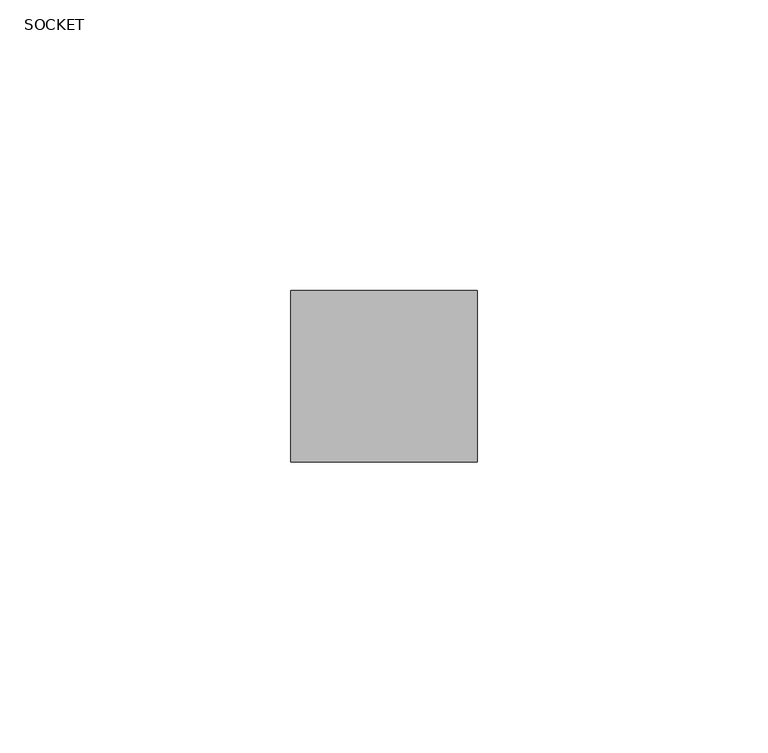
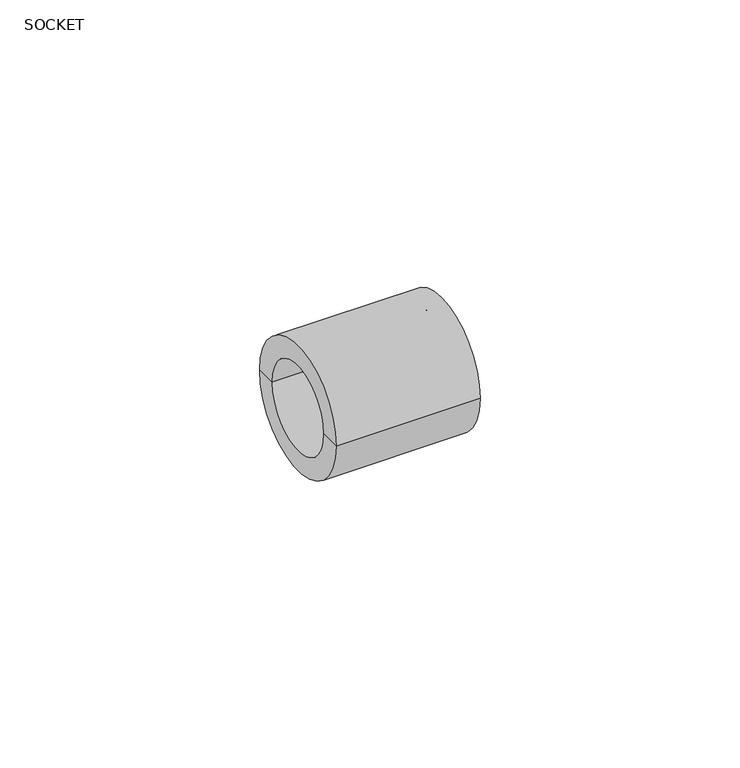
"""IFC4 building model written with IfcOpenShell, lengths in millimetres: pipe fitting geometry, Aquatherm - Coupling Socket : SOCKET."""

from ifc_helpers import new_model, si_unit, frame, origin, place, context, project, spatial, polyline, circle_curve, source, transform, mapped, element, save
from ifc_brep_helpers import plane_surface, cylinder_surface, revolved_surface, advanced_brep


def socket_94a9f45b(model_context):
    return source(origin(), model_context, "Body", "AdvancedBrep", [
        advanced_brep(
        [(-16.002, -10.033, 0.0), (-16.002, 10.033, 0.0), (-16.002, 14.732, 0.0), (-16.002, -14.732, 0.0), (-1.524, -10.033, 0.0), (-1.524, 10.033, 0.0), (-1.524, -6.985, 0.0), (-1.524, 6.985, 0.0), (1.524, -6.985, 0.0), (1.524, 6.985, 0.0), (1.524, -10.033, 0.0), (1.524, 10.033, 0.0), (16.002, -10.033, 0.0), (16.002, 10.033, 0.0), (16.002, -14.732, 0.0), (16.002, 14.732, 0.0)],
        [
            (0, 1, circle_curve(frame((-16.002, 0.0, 0.0), z_axis=(1.0, 0.0, 0.0), x_axis=(0.0, 1.0, 0.0)), 10.033)),
            (1, 2),
            (2, 3, circle_curve(frame((-16.002, 0.0, 0.0), z_axis=(-1.0, 0.0, 0.0), x_axis=(0.0, 1.0, 0.0)), 14.732)),
            (3, 0),
            (1, 0, circle_curve(frame((-16.002, 0.0, 0.0), z_axis=(1.0, 0.0, 0.0), x_axis=(0.0, 1.0, 0.0)), 10.033)),
            (3, 2, circle_curve(frame((-16.002, 0.0, 0.0), z_axis=(-1.0, 0.0, 0.0), x_axis=(0.0, 1.0, 0.0)), 14.732)),
            (4, 5, circle_curve(frame((-1.524, 0.0, 0.0), z_axis=(1.0, 0.0, 0.0), x_axis=(0.0, 1.0, 0.0)), 10.033)),
            (5, 1),
            (0, 4),
            (5, 4, circle_curve(frame((-1.524, 0.0, 0.0), z_axis=(1.0, 0.0, 0.0), x_axis=(0.0, 1.0, 0.0)), 10.033)),
            (6, 7, circle_curve(frame((-1.524, 0.0, 0.0), z_axis=(1.0, 0.0, 0.0), x_axis=(0.0, 1.0, 0.0)), 6.985)),
            (7, 5),
            (4, 6),
            (7, 6, circle_curve(frame((-1.524, 0.0, 0.0), z_axis=(1.0, 0.0, 0.0), x_axis=(0.0, 1.0, 0.0)), 6.985)),
            (8, 9, circle_curve(frame((1.524, 0.0, 0.0), z_axis=(1.0, 0.0, 0.0), x_axis=(0.0, 1.0, 0.0)), 6.985)),
            (9, 7),
            (6, 8),
            (9, 8, circle_curve(frame((1.524, 0.0, 0.0), z_axis=(1.0, 0.0, 0.0), x_axis=(0.0, 1.0, 0.0)), 6.985)),
            (10, 11, circle_curve(frame((1.524, 0.0, 0.0), z_axis=(1.0, 0.0, 0.0), x_axis=(0.0, 1.0, 0.0)), 10.033)),
            (11, 9),
            (8, 10),
            (11, 10, circle_curve(frame((1.524, 0.0, 0.0), z_axis=(1.0, 0.0, 0.0), x_axis=(0.0, 1.0, 0.0)), 10.033)),
            (12, 13, circle_curve(frame((16.002, 0.0, 0.0), z_axis=(1.0, 0.0, 0.0), x_axis=(0.0, 1.0, 0.0)), 10.033)),
            (13, 11),
            (10, 12),
            (13, 12, circle_curve(frame((16.002, 0.0, 0.0), z_axis=(1.0, 0.0, 0.0), x_axis=(0.0, 1.0, 0.0)), 10.033)),
            (14, 15, circle_curve(frame((16.002, 0.0, 0.0), z_axis=(1.0, 0.0, 0.0), x_axis=(0.0, 1.0, 0.0)), 14.732)),
            (15, 13),
            (12, 14),
            (15, 14, circle_curve(frame((16.002, 0.0, 0.0), z_axis=(1.0, 0.0, 0.0), x_axis=(0.0, 1.0, 0.0)), 14.732)),
            (2, 15),
            (14, 3),
        ],
        [
            plane_surface(frame((-16.002, 0.0, 0.0), z_axis=(-1.0, 0.0, 0.0), x_axis=(0.0, 1.0, 0.0))),
            revolved_surface(polyline([(-16.002, 10.033, 0.0), (-1.524000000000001, 10.033, 0.0)]), (-32.3004022, 0.0, 0.0), (-1.0, 0.0, 0.0)),
            plane_surface(frame((-1.524, 0.0, 0.0), z_axis=(-1.0, 0.0, 0.0), x_axis=(0.0, 1.0, 0.0))),
            revolved_surface(polyline([(-1.524000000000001, 6.985, 0.0), (1.524000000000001, 6.985, 0.0)]), (-32.3004022, 0.0, 0.0), (-1.0, 0.0, 0.0)),
            plane_surface(frame((1.524, 0.0, 0.0), z_axis=(1.0, 0.0, 0.0), x_axis=(0.0, 1.0, 0.0))),
            revolved_surface(polyline([(1.524000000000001, 10.033, 0.0), (16.002000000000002, 10.033, 0.0)]), (-32.3004022, 0.0, 0.0), (-1.0, 0.0, 0.0)),
            plane_surface(frame((16.002, 0.0, 0.0), z_axis=(1.0, 0.0, 0.0), x_axis=(0.0, 1.0, 0.0))),
            cylinder_surface(frame((-32.3004022, 0.0, 0.0), z_axis=(-1.0, 0.0, 0.0), x_axis=(0.0, 1.0, 0.0)), 14.732),
        ],
        [
            (0, [[1, 2, 3, 4]]),
            (0, [[5, -4, 6, -2]]),
            (1, [[7, 8, -1, 9]]),
            (1, [[10, -9, -5, -8]]),
            (2, [[11, 12, -7, 13]]),
            (2, [[14, -13, -10, -12]]),
            (3, [[15, 16, -11, 17]]),
            (3, [[18, -17, -14, -16]]),
            (4, [[19, 20, -15, 21]]),
            (4, [[22, -21, -18, -20]]),
            (5, [[23, 24, -19, 25]]),
            (5, [[26, -25, -22, -24]]),
            (6, [[27, 28, -23, 29]]),
            (6, [[30, -29, -26, -28]]),
            (7, [[-3, 31, -27, 32]]),
            (7, [[-6, -32, -30, -31]]),
        ],
    ),
    ])


if __name__ == "__main__":
    model = new_model("IFC4")
    model_context = context("Model", 3, world=origin())
    ifc_project = project(units=[si_unit("LENGTHUNIT", "METRE", prefix="MILLI")], contexts=[model_context])
    site = spatial("IfcSite", under=ifc_project)
    building = spatial("IfcBuilding", under=site)
    placement = place(None, origin())
    ifc_socket_shape = socket_94a9f45b(model_context)
    element("IfcPipeFitting", 1, ObjectType="Aquatherm - Coupling Socket : SOCKET", at=placement, inside=building, context=model_context, shape_type="MappedRepresentation", body=[
        mapped(ifc_socket_shape, transform((0.0, 0.0, 0.0), x_axis=(1.0, 0.0, 0.0), y_axis=(0.0, 1.0, 0.0), z_axis=(0.0, 0.0, 1.0))),
    ])
    save(model, "model.ifc")
